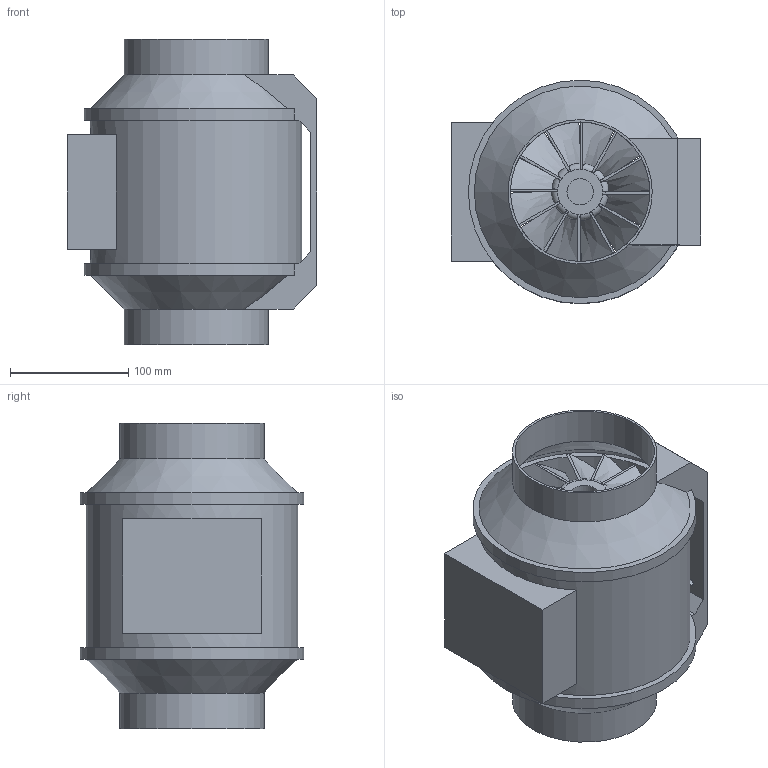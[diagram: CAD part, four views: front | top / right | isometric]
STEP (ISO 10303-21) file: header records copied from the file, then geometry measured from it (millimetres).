
FILE_DESCRIPTION(/* description */ (''),/* implementation_level */ '2;1');
FILE_NAME(/* name */ 'Z:\Output\MV_125-06052-002.stp',/* time_stamp */ '2022-07-25T13:49:01+02:00',/* author */ ('engineering1'),/* organization */ (''),/* preprocessor_version */ 'ST-DEVELOPER v17.2',/* originating_system */ 'Autodesk Inventor 2019',/* authorisation */ '');
FILE_SCHEMA (('AUTOMOTIVE_DESIGN { 1 0 10303 214 3 1 1 }'));
Length unit declared in the file: millimetre
Products named in the file (1): MV-1USER
Bounding box: 211 x 189 x 258 mm (x, y, z)
Volume: 1669630.6 mm3; surface area: 475144.7 mm2
Topology: 3 solids, 3 shells, 327 faces, 791 edges, 517 vertices
Faces by surface type: plane 237, bspline 48, cylinder 23, torus 13, cone 6
Full cylindrical faces by diameter (mm): 6 x4, 22.286 x1, 36.286 x1, 48.286 x1, 82 x1, 118 x2, 122 x2, 175 x1, 179 x1, 185 x2, 189 x2
Entity records: 10735 total; most frequent: CARTESIAN_POINT 2883, ORIENTED_EDGE 1582, DIRECTION 1431, EDGE_CURVE 791, VERTEX_POINT 517, LINE 509, VECTOR 509, AXIS2_PLACEMENT_3D 461
